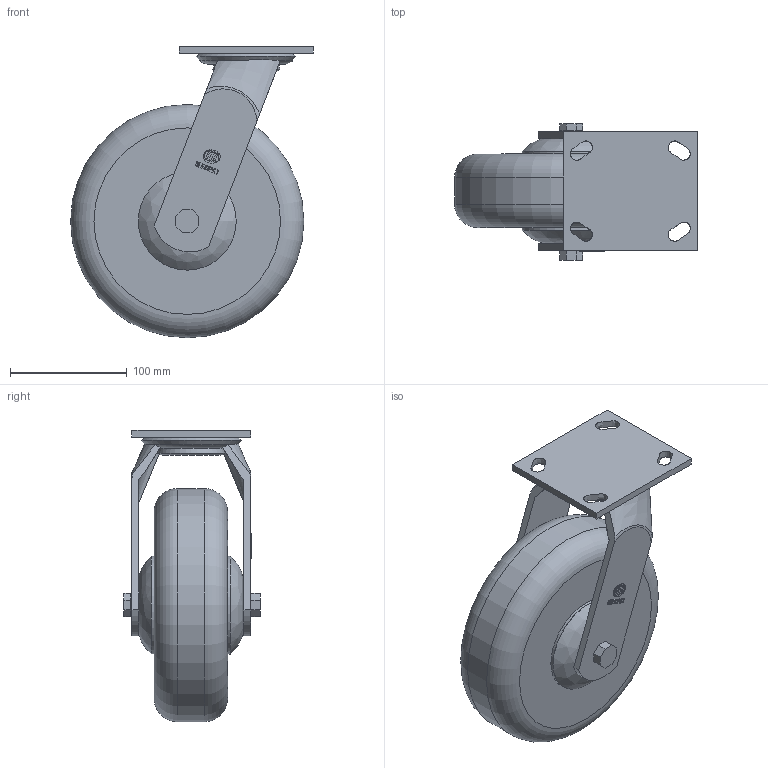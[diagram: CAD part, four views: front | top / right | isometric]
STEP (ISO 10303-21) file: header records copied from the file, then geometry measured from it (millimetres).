
FILE_DESCRIPTION(/* description */ (''),/* implementation_level */ '2;1');
FILE_NAME(/* name */ '65B06_8_R.stp',/* time_stamp */ '2022-08-29T13:16:04+08:00',/* author */ (''),/* organization */ (''),/* preprocessor_version */ 'ST-DEVELOPER v14',/* originating_system */ 'SIEMENS PLM Software NX 8.0',/* authorisation */ '');
FILE_SCHEMA (('AUTOMOTIVE_DESIGN { 1 0 10303 214 3 1 1 1 }'));
Length unit declared in the file: millimetre
Products named in the file (1): 65B06_8_R
Bounding box: 208.15 x 117 x 250 mm (x, y, z)
Volume: 2070608.5 mm3; surface area: 203629.1 mm2
Topology: 1 solids, 4 shells, 301 faces, 795 edges, 534 vertices
Faces by surface type: plane 223, cylinder 47, torus 10, bspline 10, cone 7, extrusion 4
Full cylindrical faces by diameter (mm): 12 x3, 12.3 x2, 12.5 x3, 16 x1, 16.2 x1, 25 x1, 37 x1, 40 x1, 82.4 x2, 84 x2, 200 x1
Entity records: 10174 total; most frequent: CARTESIAN_POINT 3437, ORIENTED_EDGE 1474, DIRECTION 1140, EDGE_CURVE 737, VERTEX_POINT 517, AXIS2_PLACEMENT_3D 410, EDGE_LOOP 390, VECTOR 320
